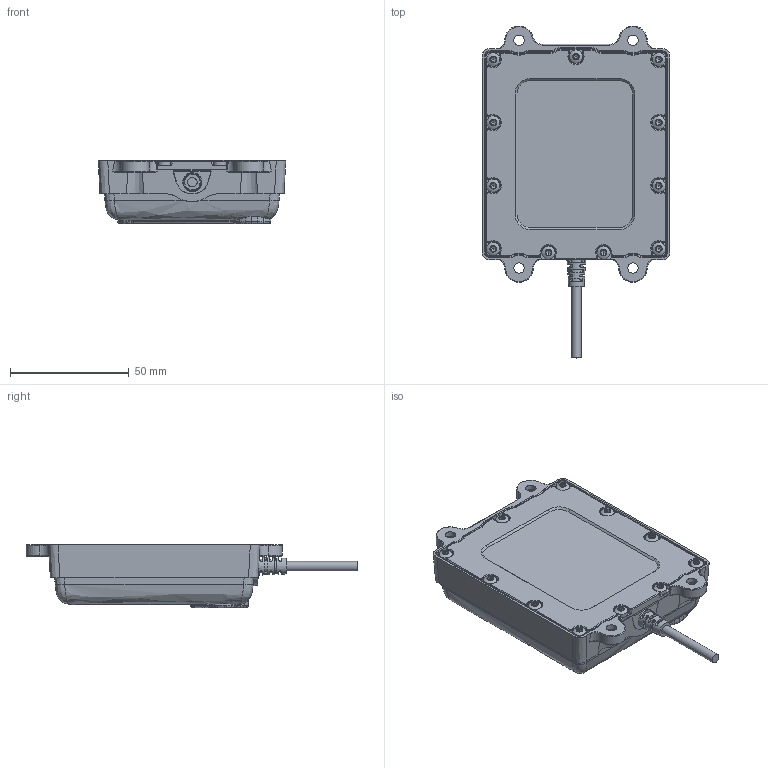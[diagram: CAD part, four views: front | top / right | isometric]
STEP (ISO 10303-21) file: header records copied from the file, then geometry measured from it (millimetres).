
FILE_DESCRIPTION(('FreeCAD Model'),'2;1');
FILE_NAME('Open CASCADE Shape Model','2026-07-16T10:03:54',(''),(''), 'Open CASCADE STEP processor 7.8','FreeCAD','Unknown');
FILE_SCHEMA(('AUTOMOTIVE_DESIGN { 1 0 10303 214 1 1 1 1 }'));
Length unit declared in the file: millimetre
Products named in the file (10): AM11009-C; MP11018 Rev A; MP11011_MP11018; MP11019 Rev A; MP11012; Group-Lid-Screws; M3x8-Screw; MP11013-D; Integral_cable; Body
Assembly tree (19 placements, depth 3):
  AM11009-C
    MP11018 Rev A
      MP11011_MP11018
    MP11019 Rev A
      MP11012
    Group-Lid-Screws
      M3x8-Screw  x11
    MP11013-D
    Integral_cable
      Body
Bounding box: 79 x 139.89 x 26.72 mm (x, y, z)
Volume: 79300.9 mm3; surface area: 50352.6 mm2
Topology: 15 solids, 15 shells, 1680 faces, 4489 edges, 2899 vertices
Faces by surface type: cylinder 1037, plane 362, torus 117, cone 113, bspline 31, sphere 12, revolution 8
Full cylindrical faces by diameter (mm): 2.4 x15, 2.95 x1, 3 x11, 3.2 x15, 3.3 x11, 4 x2, 4.4 x4, 4.5 x2, 5.6 x11
Entity records: 52564 total; most frequent: CARTESIAN_POINT 14043, DIRECTION 8554, ORIENTED_EDGE 7912, EDGE_CURVE 3956, AXIS2_PLACEMENT_3D 3483, VERTEX_POINT 2559, CIRCLE 1992, LINE 1580
